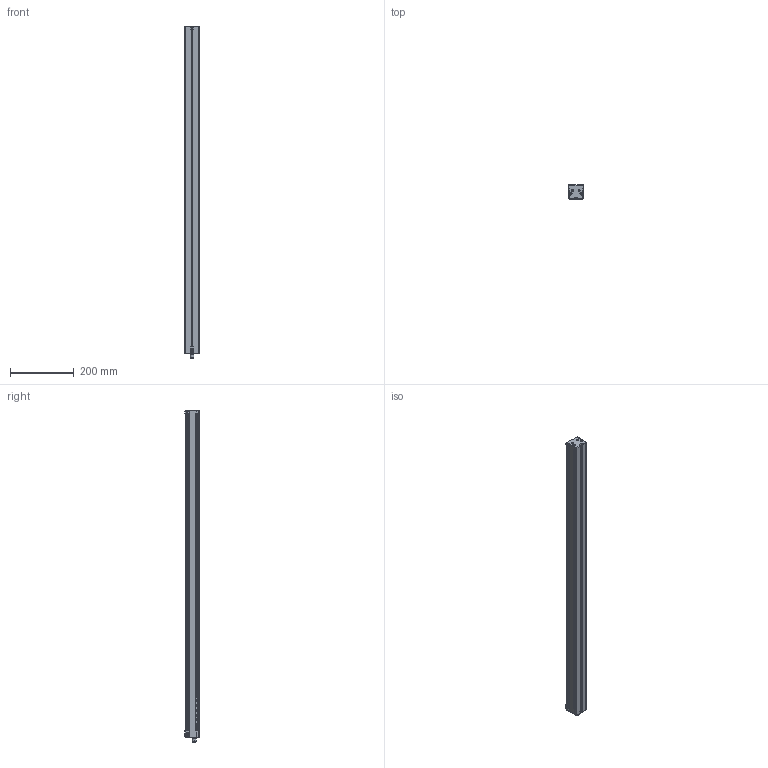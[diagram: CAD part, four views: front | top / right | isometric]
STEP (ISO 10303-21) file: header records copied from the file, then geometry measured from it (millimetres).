
FILE_DESCRIPTION (( 'STEP AP214' ), '1' );
FILE_NAME ('EBAR-HPS-1000-xxx-UN_CLIENT.STEP', '2025-11-18T12:00:47', ( '' ), ( '' ), 'SwSTEP 2.0', 'SolidWorks 2025', '' );
FILE_SCHEMA (( 'AUTOMOTIVE_DESIGN' ));
Length unit declared in the file: millimetre
Products named in the file (3): EBAR-HPS-1000-xxx-UN_CLIENT; M4 T-Slot Nut; EBAR-HPS-xxx-xxx-xx_CLIENT_1000
Assembly tree (19 placements, depth 2):
  EBAR-HPS-1000-xxx-UN_CLIENT
    EBAR-HPS-xxx-xxx-xx_CLIENT_1000
    M4 T-Slot Nut  x18
Bounding box: 47.63 x 45 x 1045.06 mm (x, y, z)
Volume: 1756307.2 mm3; surface area: 252895.5 mm2
Topology: 19 solids, 19 shells, 1094 faces, 2840 edges, 1856 vertices
Faces by surface type: plane 562, cylinder 294, bspline 140, torus 62, sphere 22, cone 14
Entity records: 29283 total; most frequent: CARTESIAN_POINT 10277, ORIENTED_EDGE 4098, DIRECTION 3566, EDGE_CURVE 2049, VERTEX_POINT 1329, AXIS2_PLACEMENT_3D 1222, LINE 1122, VECTOR 1122
